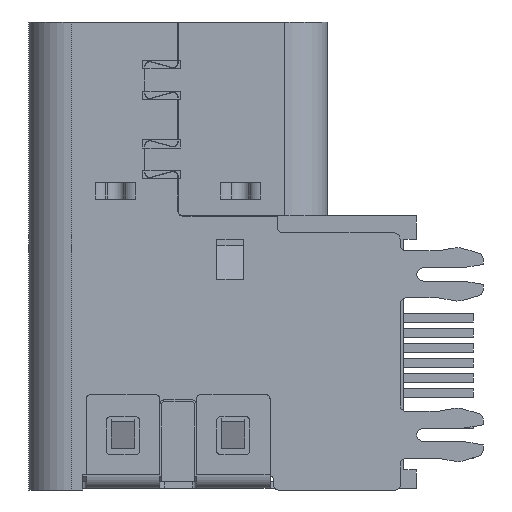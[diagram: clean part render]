
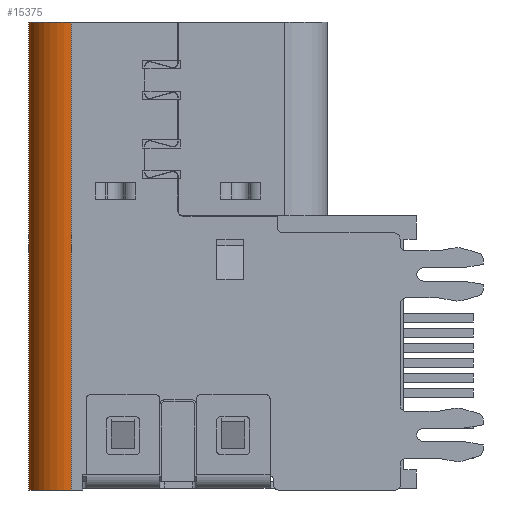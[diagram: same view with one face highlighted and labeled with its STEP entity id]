
A CAD part, left-side view. The second image highlights one B-rep face of the part: STEP entity #15375.
In plain terms, the highlighted cylindrical face has radius 1.28 mm (diameter 2.56 mm), a partial arc.
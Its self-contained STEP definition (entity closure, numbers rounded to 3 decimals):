
#1661 = CARTESIAN_POINT ( 'NONE',  ( -0.33, 18.11, -3.52 ) ) ;
#4034 = DIRECTION ( 'NONE',  ( 0., 0., -1. ) ) ;
#4487 = ORIENTED_EDGE ( 'NONE', *, *, #27484, .F. ) ;
#4801 = DIRECTION ( 'NONE',  ( 0., 0., 1. ) ) ;
#5122 = DIRECTION ( 'NONE',  ( -1., 0., 0. ) ) ;
#5219 = EDGE_LOOP ( 'NONE', ( #4487, #23144, #14235, #6340 ) ) ;
#5953 = CIRCLE ( 'NONE', #24857, 1.28 ) ;
#6340 = ORIENTED_EDGE ( 'NONE', *, *, #19123, .F. ) ;
#6365 = CARTESIAN_POINT ( 'NONE',  ( 0.95, 19.39, -3.52 ) ) ;
#7244 = DIRECTION ( 'NONE',  ( -1., -0.031, 0. ) ) ;
#7498 = CARTESIAN_POINT ( 'NONE',  ( -0.33, 18.11, -3.8 ) ) ;
#7874 = VECTOR ( 'NONE', #27358, 1000. ) ;
#8012 = AXIS2_PLACEMENT_3D ( 'NONE', #11978, #17379, #7244 ) ;
#8417 = CIRCLE ( 'NONE', #27320, 1.28 ) ;
#9652 = VECTOR ( 'NONE', #16677, 1000. ) ;
#11813 = DIRECTION ( 'NONE',  ( -1., 0., 0. ) ) ;
#11978 = CARTESIAN_POINT ( 'NONE',  ( 0.95, 18.11, -10.8 ) ) ;
#12913 = CARTESIAN_POINT ( 'NONE',  ( 0.95, 18.11, -17.8 ) ) ;
#14235 = ORIENTED_EDGE ( 'NONE', *, *, #15746, .F. ) ;
#15375 = ADVANCED_FACE ( 'NONE', ( #30411 ), #19918, .F. ) ;
#15470 = VERTEX_POINT ( 'NONE', #27374 ) ;
#15746 = EDGE_CURVE ( 'NONE', #15470, #20012, #29529, .T. ) ;
#15772 = CARTESIAN_POINT ( 'NONE',  ( -0.33, 18.11, -17.8 ) ) ;
#16677 = DIRECTION ( 'NONE',  ( 0., 0., -1. ) ) ;
#17379 = DIRECTION ( 'NONE',  ( 0., 0., -1. ) ) ;
#19123 = EDGE_CURVE ( 'NONE', #31933, #15470, #5953, .T. ) ;
#19918 = CYLINDRICAL_SURFACE ( 'NONE', #8012, 1.28 ) ;
#20012 = VERTEX_POINT ( 'NONE', #27637 ) ;
#21952 = CARTESIAN_POINT ( 'NONE',  ( 0.95, 18.11, -3.8 ) ) ;
#23144 = ORIENTED_EDGE ( 'NONE', *, *, #29680, .F. ) ;
#24857 = AXIS2_PLACEMENT_3D ( 'NONE', #21952, #4034, #11813 ) ;
#27320 = AXIS2_PLACEMENT_3D ( 'NONE', #12913, #4801, #5122 ) ;
#27358 = DIRECTION ( 'NONE',  ( 0., 0., 1. ) ) ;
#27374 = CARTESIAN_POINT ( 'NONE',  ( 0.95, 19.39, -3.8 ) ) ;
#27484 = EDGE_CURVE ( 'NONE', #33236, #31933, #30236, .T. ) ;
#27637 = CARTESIAN_POINT ( 'NONE',  ( 0.95, 19.39, -17.8 ) ) ;
#29529 = LINE ( 'NONE', #6365, #9652 ) ;
#29680 = EDGE_CURVE ( 'NONE', #20012, #33236, #8417, .T. ) ;
#30236 = LINE ( 'NONE', #1661, #7874 ) ;
#30411 = FACE_OUTER_BOUND ( 'NONE', #5219, .T. ) ;
#31933 = VERTEX_POINT ( 'NONE', #7498 ) ;
#33236 = VERTEX_POINT ( 'NONE', #15772 ) ;
